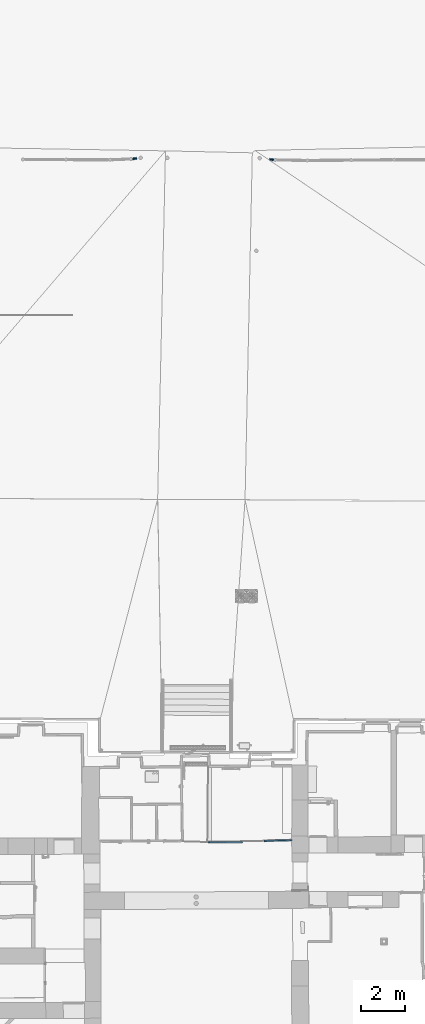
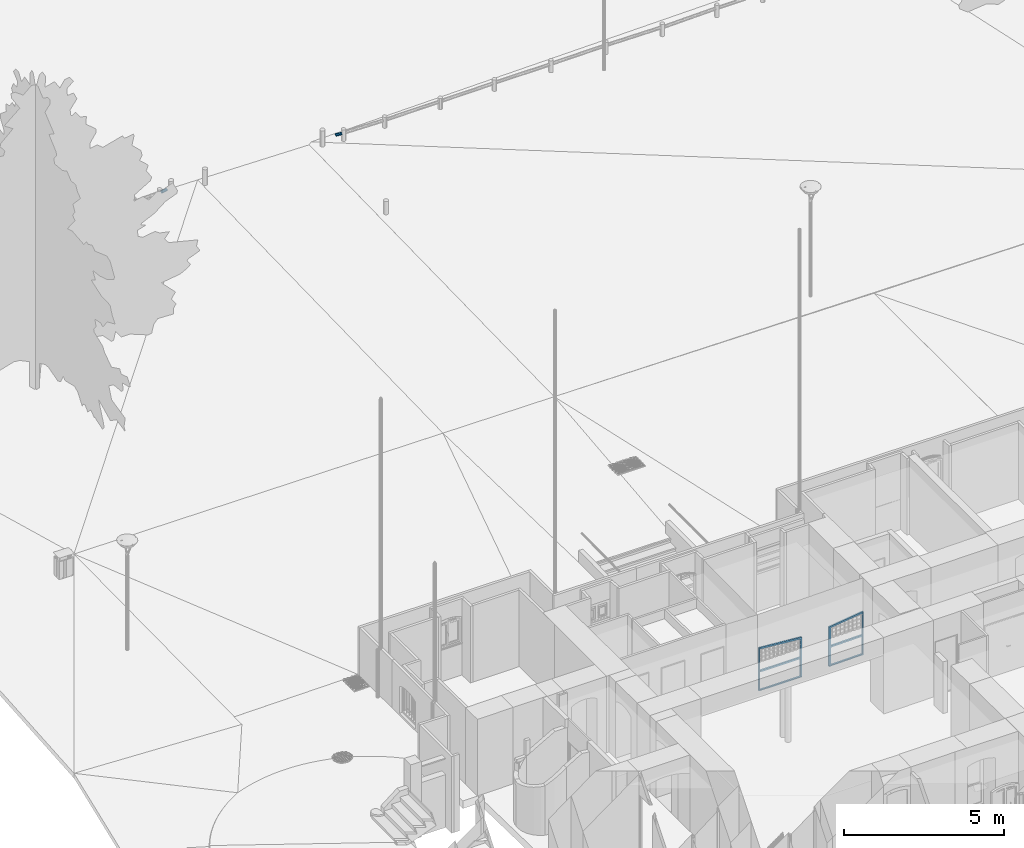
# One storey, part 5 of 133: 6 members, 2 beams, 2 elements without a shape of their own.
"""IFC2X3 building model written with IfcOpenShell, lengths in centimetres."""

import ifcopenshell
import ifcopenshell.guid

model = None  # the IFC model being written
_history = None  # IfcOwnerHistory: only IFC2X3 demands one
_inside = {}  # id of a spatial element -> (the spatial element, [elements in it])
_under = {}  # id of a project, library or spatial element -> (it, [spatial elements below it])
_declared = {}  # id of a project -> (the project, [libraries it declares])
_typed = {}  # id of a type object -> (the type object, [elements of that type])
_made_of = {}  # id of a material, layer set ... -> (it, [elements and type objects made of it])


def new_model(schema):
    """Start an empty IFC model of exactly this schema.

    Asked for "IFC4X3", IfcOpenShell would pick the latest addendum, in which some entities
    have other attributes; the version numbers below select the first issue.
    IFC2X3 requires an IfcOwnerHistory on every rooted entity: one is made here for all.
    """
    global model, _history
    if schema == "IFC4X3":
        model = ifcopenshell.file(schema_version=(4, 3, 0, 0))
    else:
        model = ifcopenshell.file(schema=schema)
    _inside.clear()
    _under.clear()
    _declared.clear()
    _typed.clear()
    _made_of.clear()
    _history = None
    if model.schema == "IFC2X3":
        org = make("IfcOrganization", Name="unknown")
        user = make(
            "IfcPersonAndOrganization",
            ThePerson=make("IfcPerson", FamilyName="unknown"),
            TheOrganization=org,
        )
        app = make(
            "IfcApplication",
            ApplicationDeveloper=org,
            Version="unknown",
            ApplicationFullName="unknown",
            ApplicationIdentifier="unknown",
        )
        _history = make(
            "IfcOwnerHistory",
            OwningUser=user,
            OwningApplication=app,
            ChangeAction="ADDED",
            CreationDate=0,
        )
    return model


def make(cls, **values):
    """One entity of the class cls with the attributes given. An attribute that is None is left unset."""
    return model.create_entity(
        cls, **{name: value for name, value in values.items() if value is not None}
    )


def entity(cls, *values):
    """Any entity or typed value of the class cls, its attributes in the order of the schema. None: left unset."""
    e = model.create_entity(cls)
    for i, value in enumerate(values):
        if value is not None:
            e[i] = value
    return e


def rooted(cls, **values):
    """An entity with a GlobalId (a new one), such as an element, a storey or a relation."""
    return make(cls, GlobalId=ifcopenshell.guid.new(), OwnerHistory=_history, **values)


def si_unit(unit_type, name, prefix=None):
    """IfcSIUnit, for example si_unit("LENGTHUNIT", "METRE", prefix="MILLI")."""
    return make("IfcSIUnit", UnitType=unit_type, Prefix=prefix, Name=name)


def converted_unit(unit_type, name, factor, base, dimensions=None, offset=None):
    """IfcConversionBasedUnit, such as the inch: factor (a typed value) times the base unit."""
    return make(
        "IfcConversionBasedUnit"
        if offset is None
        else "IfcConversionBasedUnitWithOffset",
        ConversionOffset=offset,
        Dimensions=None
        if dimensions is None
        else entity("IfcDimensionalExponents", *dimensions),
        UnitType=unit_type,
        Name=name,
        ConversionFactor=make(
            "IfcMeasureWithUnit", ValueComponent=factor, UnitComponent=base
        ),
    )


def assignment(units):
    """IfcUnitAssignment: the units of a project."""
    return None if units is None else make("IfcUnitAssignment", Units=units)


def point(xyz):
    """IfcCartesianPoint."""
    return None if xyz is None else make("IfcCartesianPoint", Coordinates=xyz)


def direction(xyz):
    """IfcDirection."""
    return None if xyz is None else make("IfcDirection", DirectionRatios=xyz)


def frame(location, z_axis=None, x_axis=None):
    """IfcAxis2Placement3D, a coordinate frame: its origin and axes. An axis left out is left unset."""
    return make(
        "IfcAxis2Placement3D",
        Location=point(location),
        Axis=direction(z_axis),
        RefDirection=direction(x_axis),
    )


def frame_2d(location, x_axis=None):
    """IfcAxis2Placement2D, a coordinate frame in the plane: its origin and x axis."""
    return make(
        "IfcAxis2Placement2D", Location=point(location), RefDirection=direction(x_axis)
    )


def origin():
    """The frame at (0, 0, 0) with its axes left unset."""
    return frame((0.0, 0.0, 0.0))


def origin_with_axes():
    """The frame at (0, 0, 0) with the z axis (0, 0, 1) and the x axis (1, 0, 0) written out."""
    return frame((0.0, 0.0, 0.0), z_axis=(0.0, 0.0, 1.0), x_axis=(1.0, 0.0, 0.0))


def origin_2d_with_axis():
    """The frame at (0, 0) in the plane with the x axis (1, 0) written out."""
    return frame_2d((0.0, 0.0), x_axis=(1.0, 0.0))


def place(relative_to, where):
    """IfcLocalPlacement: puts the frame where relative to a parent placement (None: the world)."""
    return make(
        "IfcLocalPlacement", PlacementRelTo=relative_to, RelativePlacement=where
    )


def context(
    kind, dimensions, precision=None, world=None, true_north=None, identifier=None
):
    """IfcGeometricRepresentationContext, for example the 3D "Model" context."""
    return make(
        "IfcGeometricRepresentationContext",
        ContextIdentifier=identifier,
        ContextType=kind,
        CoordinateSpaceDimension=dimensions,
        Precision=precision,
        WorldCoordinateSystem=world,
        TrueNorth=true_north,
    )


def subcontext(parent, identifier, kind, view, scale=None):
    """IfcGeometricRepresentationSubContext, for example "Body" below "Model"."""
    return make(
        "IfcGeometricRepresentationSubContext",
        ContextIdentifier=identifier,
        ContextType=kind,
        ParentContext=parent,
        TargetScale=scale,
        TargetView=view,
    )


def project(units=None, contexts=None):
    """IfcProject with its units and contexts."""
    return rooted(
        "IfcProject",
        Name="project",
        RepresentationContexts=contexts,
        UnitsInContext=assignment(units),
    )


def spatial(cls, under=None, at=None, **own):
    """A site, building, storey or space (cls), placed at a placement, below another one or the project."""
    s = rooted(cls, ObjectPlacement=at, **own)
    if under is not None:
        _under.setdefault(under.id(), (under, []))[1].append(s)
    return s


def profile(cls, at=None, kind="AREA", **sizes):
    """A parametric profile (cls). Its sizes go by their IFC names, for example OverallWidth=200.0."""
    return make(cls, ProfileType=kind, Position=at, **sizes)


def circle(**sizes):
    """IfcCircleProfileDef."""
    return profile("IfcCircleProfileDef", **sizes)


def extrude(swept, where, along, depth):
    """IfcExtrudedAreaSolid: the profile swept, set in the frame where, extruded along a direction by depth."""
    return make(
        "IfcExtrudedAreaSolid",
        SweptArea=swept,
        Position=where,
        ExtrudedDirection=direction(along),
        Depth=depth,
    )


def faces_of(points, faces, orient=None, outer=None):
    """IfcFace entities. A face is a list of loops; a loop is a list of indices into points, from 0.

    orient and outer hold one flag for each loop. By default every Orientation is true, the
    first loop of a face is its IfcFaceOuterBound and the others are IfcFaceBound.
    """
    made = []
    for i, loops in enumerate(faces):
        bounds = []
        for j, loop in enumerate(loops):
            is_outer = j == 0 if outer is None else outer[i][j]
            bounds.append(
                make(
                    "IfcFaceOuterBound" if is_outer else "IfcFaceBound",
                    Bound=make("IfcPolyLoop", Polygon=[points[k] for k in loop]),
                    Orientation=True if orient is None else orient[i][j],
                )
            )
        made.append(make("IfcFace", Bounds=bounds))
    return made


def faceted_brep(points, faces, orient=None, outer=None, voids=None):
    """IfcFacetedBrep: a solid bounded by flat faces; with voids (closed shells), ...WithVoids."""
    shared = [point(p) for p in points]
    hull = make("IfcClosedShell", CfsFaces=faces_of(shared, faces, orient, outer))
    if voids is None:
        return make("IfcFacetedBrep", Outer=hull)
    return make(
        "IfcFacetedBrepWithVoids",
        Outer=hull,
        Voids=[
            make(cls, CfsFaces=faces_of(shared, fs, o, b)) for cls, fs, o, b in voids
        ],
    )


def shape(context_of_items, identifier, shape_type, items):
    """IfcShapeRepresentation: the items that make up one representation, for example the "Body"."""
    return make(
        "IfcShapeRepresentation",
        ContextOfItems=context_of_items,
        RepresentationIdentifier=identifier,
        RepresentationType=shape_type,
        Items=items,
    )


def source(mapping_origin, context_of_items, identifier, shape_type, items):
    """IfcRepresentationMap: a shape defined once, which mapped items show again and again."""
    return make(
        "IfcRepresentationMap",
        MappingOrigin=mapping_origin,
        MappedRepresentation=shape(context_of_items, identifier, shape_type, items),
    )


def transform(
    local_origin,
    x_axis=None,
    y_axis=None,
    z_axis=None,
    scale=None,
    scale2=None,
    scale3=None,
    uniform=True,
):
    """IfcCartesianTransformationOperator3D, or its non-uniform kind. x_axis, y_axis, z_axis: its Axis1, 2, 3."""
    if uniform:
        return make(
            "IfcCartesianTransformationOperator3D",
            Axis1=direction(x_axis),
            Axis2=direction(y_axis),
            LocalOrigin=point(local_origin),
            Scale=scale,
            Axis3=direction(z_axis),
        )
    return make(
        "IfcCartesianTransformationOperator3DnonUniform",
        Axis1=direction(x_axis),
        Axis2=direction(y_axis),
        LocalOrigin=point(local_origin),
        Scale=scale,
        Axis3=direction(z_axis),
        Scale2=scale2,
        Scale3=scale3,
    )


def mapped(mapping_source, mapping_target):
    """IfcMappedItem: shows the shape of a source again, moved by a transform."""
    return make(
        "IfcMappedItem", MappingSource=mapping_source, MappingTarget=mapping_target
    )


def material(Name=None, Category=None):
    """IfcMaterial."""
    return make("IfcMaterial", Name=Name, Category=Category)


def made_of(thing, what):
    """Note that an element or type object is made of a material, layer set ...; save() writes the relation."""
    if what is not None:
        _made_of.setdefault(what.id(), (what, []))[1].append(thing)
    return thing


def type_object(cls, material=None, **own):
    """A type object (cls), such as IfcWallType, which elements share."""
    return made_of(rooted(cls, **own), material)


def element(
    cls,
    number,
    at=None,
    inside=None,
    cuts=None,
    type_object=None,
    material=None,
    context=None,
    identifier="Body",
    shape_type=None,
    held_by="IfcProductDefinitionShape",
    body=None,
    shapes=None,
    **own,
):
    """One element of the class cls, such as IfcWall. Its Tag is "e" and its number.

    at: its placement. inside: the storey or other place that contains it. cuts: it is an
    opening in that element (IfcRelVoidsElement). A single representation is given by context,
    identifier, shape_type and body (its items); several are given by shapes. held_by: the class
    of the entity that holds the representations. save() writes the other relations.
    """
    e = rooted(cls, Tag="e%d" % number, ObjectPlacement=at, **own)
    if body is not None:
        shapes = [shape(context, identifier, shape_type, body)]
    if shapes is not None:
        e.Representation = make(held_by, Representations=shapes)
    if inside is not None:
        _inside.setdefault(inside.id(), (inside, []))[1].append(e)
    if cuts is not None:
        rooted(
            "IfcRelVoidsElement", RelatingBuildingElement=cuts, RelatedOpeningElement=e
        )
    if type_object is not None:
        _typed.setdefault(type_object.id(), (type_object, []))[1].append(e)
    return made_of(e, material)


def aggregate(whole, parts):
    """IfcRelAggregates: a whole, such as a stair, and the parts it consists of."""
    return rooted("IfcRelAggregates", RelatingObject=whole, RelatedObjects=parts)


def save(model, path):
    """Write the relations noted so far, then the file.

    IfcRelAggregates (storeys below a building ...), IfcRelContainedInSpatialStructure (elements
    in a storey), IfcRelDefinesByType, IfcRelAssociatesMaterial and IfcRelDeclares: one each for
    every whole, place, type object, material and project.
    """
    for whole, parts in _under.values():
        aggregate(whole, parts)
    for where, things in _inside.values():
        rooted(
            "IfcRelContainedInSpatialStructure",
            RelatedElements=things,
            RelatingStructure=where,
        )
    for kind, things in _typed.values():
        rooted("IfcRelDefinesByType", RelatedObjects=things, RelatingType=kind)
    for what, things in _made_of.values():
        rooted("IfcRelAssociatesMaterial", RelatedObjects=things, RelatingMaterial=what)
    for by, libraries in _declared.values():
        rooted("IfcRelDeclares", RelatingContext=by, RelatedDefinitions=libraries)
    model.write(path)


model = new_model("IFC2X3")

# Units and contexts
model_context = context("Model", 3, precision=0.0001, world=origin(), true_north=direction((0.225632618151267, 0.974212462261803, 0.0)))
body_context = subcontext(model_context, "Body", "Model", "MODEL_VIEW")
ifc_project = project(units=[si_unit("LENGTHUNIT", "METRE", prefix="CENTI"), si_unit("AREAUNIT", "SQUARE_METRE", prefix="CENTI"), si_unit("VOLUMEUNIT", "CUBIC_METRE", prefix="CENTI"), converted_unit("PLANEANGLEUNIT", "DEGREE", entity("IfcRatioMeasure", 0.0174532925), si_unit("PLANEANGLEUNIT", "RADIAN"), dimensions=[0, 0, 0, 0, 0, 0, 0])], contexts=[model_context])

# Site, building, storey
site_placement = place(None, origin_with_axes())
site = spatial("IfcSite", under=ifc_project, at=site_placement, Name="Default Site", CompositionType="ELEMENT")
building_placement = place(site_placement, origin_with_axes())
building = spatial("IfcBuilding", under=site, at=building_placement, Name="Default Building", CompositionType="ELEMENT")
storey_placement = place(building_placement, frame((0.0, 0.0, -291.400371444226), z_axis=(0.0, 0.0, 1.0), x_axis=(1.0, 0.0, 0.0)))
storey = spatial("IfcBuildingStorey", under=building, at=storey_placement, Name="Rez-de-Jardin", CompositionType="ELEMENT", Elevation=-291.400371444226)

# Beams
ifc_material_1 = material(Name="Chêne rouvre 02")
beam_type = type_object("IfcBeamType", Name="Ø100", PredefinedType="NOTDEFINED", material=ifc_material_1)
shared_shape = source(origin_with_axes(), body_context, "Body", "SweptSolid", [
    extrude(circle(Radius=5.0, at=origin_2d_with_axis()), origin_with_axes(), (0.0, 0.0, 1.0), 100.0),
])
beam_1_placement = place(storey_placement, frame((-497.720271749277, 3326.36879016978, 132.400371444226), z_axis=(-0.985004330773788, -0.172529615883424, 0.0), x_axis=(0.172529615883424, -0.985004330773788, 0.0)))
element("IfcBeam", 1, at=beam_1_placement, inside=storey, type_object=beam_type, material=ifc_material_1, Name="Poutre 1702903", ObjectType="beam", context=body_context, shape_type="MappedRepresentation", body=[
    mapped(shared_shape, transform((0.0, -4.99999999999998, 0.0), x_axis=(1.0, 0.0, 0.0), y_axis=(0.0, 1.0, 0.0), z_axis=(0.0, 0.0, -1.0), scale=1.0, scale2=1.0, scale3=0.2, uniform=False)),
])
beam_2_placement = place(storey_placement, frame((148.295072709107, 3322.18067254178, 131.400371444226), z_axis=(0.990853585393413, -0.134941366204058, 6.16297582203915e-33), x_axis=(0.134941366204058, 0.990853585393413, -2.44929359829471e-16)))
element("IfcBeam", 2, at=beam_2_placement, inside=storey, type_object=beam_type, material=ifc_material_1, Name="Poutre 1702915", ObjectType="beam", context=body_context, shape_type="MappedRepresentation", body=[
    mapped(shared_shape, transform((0.0, -4.99999999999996, 0.0), x_axis=(1.0, 4.93038065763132e-32, -2.77555756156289e-17), y_axis=(0.0, 1.0, 2.73691106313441e-48), z_axis=(-1.73472347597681e-17, -6.16297582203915e-33, -1.0), scale=1.0, scale2=1.0, scale3=0.2, uniform=False)),
])

# Assembly, members
building_element_proxy_type = type_object("IfcBuildingElementProxyType", Name="Type Object", PredefinedType="NOTDEFINED")
assembly_1_placement = place(storey_placement, frame((230.29031879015, 209.448968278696, 0.0), z_axis=(0.0, 0.0, 1.0), x_axis=(-0.999739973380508, -0.0228031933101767, 0.0)))
assembly_1 = element("IfcElementAssembly", 3, at=assembly_1_placement, inside=storey, type_object=building_element_proxy_type, Name="Panneau 76236", ObjectType="Precast panel", PredefinedType="USERDEFINED")
ifc_material_2 = material(Name="Noyer 01")
member_1_placement = place(assembly_1_placement, frame((2.8421709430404e-14, -6.70551401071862e-08, 164.999997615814), z_axis=(0.0, 0.0, 1.0), x_axis=(-1.88737914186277e-15, 1.0, 0.0)))
member_1 = element("IfcMember", 4, at=member_1_placement, material=ifc_material_2, Name="4294966850", context=body_context, shape_type="Brep", body=[
    faceted_brep([(0.0, -5.00710582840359e-14, 0.0), (-5.99999986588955, -3.87467836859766e-14, 0.0), (-5.99999986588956, -3.99999991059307, 0.0), (-7.63278329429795e-15, -3.99999991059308, 0.0), (-5.99999986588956, -3.99999991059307, -160.999997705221), (-7.63278329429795e-15, -3.99999991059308, -160.999997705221), (-5.99999986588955, -3.87467836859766e-14, -164.999997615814), (0.0, -5.00710582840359e-14, -164.999997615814), (-7.54951639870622e-15, -3.99999991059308, 0.0), (-7.54951639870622e-15, -3.99999991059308, -160.999997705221), (-2.35922392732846e-13, -125.0, -160.999997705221), (-5.99999986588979, -125.0, -160.999997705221), (-5.99999986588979, -125.0, -164.999997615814), (-2.35922392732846e-13, -125.0, -164.999997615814)], [[[0, 1, 2, 3]], [[3, 2, 4, 5]], [[2, 1, 6, 4]], [[1, 0, 7, 6]], [[0, 8, 9, 7]], [[10, 11, 12, 13]], [[5, 4, 11, 10]], [[4, 6, 12, 11]], [[6, 7, 13, 12]], [[7, 9, 10, 13]]]),
])
member_2_placement = place(assembly_1_placement, frame((125.0, -6.70551685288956e-08, 3.99999991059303), z_axis=(0.0, 0.0, -1.0), x_axis=(-1.88737914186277e-15, 1.0, 0.0)))
member_2 = element("IfcMember", 5, at=member_2_placement, material=ifc_material_2, Name="4294966849", context=body_context, shape_type="Brep", body=[
    faceted_brep([(3.05311331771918e-14, 2.22044604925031e-14, -4.44089209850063e-14), (-5.99999986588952, 2.22044604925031e-14, -4.44089209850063e-14), (-5.99999986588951, -5.99999427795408, -4.44089209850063e-14), (4.19803081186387e-14, -5.99999427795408, -4.44089209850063e-14), (-5.99999986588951, -5.99999427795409, -4.44089209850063e-14), (-5.99999986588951, -5.99999427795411, -141.994472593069), (4.19803081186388e-14, -5.9999942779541, -141.994472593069), (-5.99999986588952, 2.22044604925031e-14, -147.355934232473), (-5.99999986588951, -5.99999427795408, -141.994472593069), (3.05311331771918e-14, 3.35287350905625e-14, -4.44089209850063e-14), (3.05311331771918e-14, 3.35287350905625e-14, -147.355934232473), (4.18553972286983e-14, -5.99999427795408, -4.44089209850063e-14), (4.18553972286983e-14, -5.99999427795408, -141.994472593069), (3.05311331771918e-14, 2.22044604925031e-14, -147.355934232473), (2.5882074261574e-13, -121.000000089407, -154.9619756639), (-5.99999986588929, -121.000000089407, -154.9619756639), (-5.99999986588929, -121.000000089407, -160.999997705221), (2.5882074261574e-13, -121.000000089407, -160.999997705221), (4.19803081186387e-14, -5.99999427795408, -141.994472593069), (-5.99999986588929, -121.000000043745, -154.961976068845), (2.58820742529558e-13, -121.000000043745, -154.961976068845), (2.58820741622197e-13, -120.999999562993, -161.000002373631), (-5.99999986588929, -120.999999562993, -161.000002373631), (2.58904009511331e-13, -121.000000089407, -154.9619756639), (2.58904009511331e-13, -121.000000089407, -160.999997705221)], [[[0, 1, 2, 3]], [[3, 4, 5, 6]], [[2, 1, 7, 8]], [[1, 9, 10, 7]], [[0, 11, 12, 13]], [[14, 15, 16, 17]], [[18, 8, 19, 20]], [[8, 7, 16, 15]], [[7, 13, 21, 22]], [[13, 12, 23, 24]]]),
])
member_3_placement = place(assembly_1_placement, frame((119.000005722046, -5.99999993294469, 71.0328876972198), z_axis=(1.0, 1.88737914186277e-15, 0.0), x_axis=(1.88737914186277e-15, -1.0, 0.0)))
member_3 = element("IfcMember", 6, at=member_3_placement, material=ifc_material_2, Name="4294966834", context=body_context, shape_type="Brep", body=[
    faceted_brep([(1.73472347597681e-15, -4.44089209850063e-14, 2.22044604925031e-14), (-5.99999986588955, -4.44089209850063e-14, 3.35287350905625e-14), (-5.99999986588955, -6.00000023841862, 3.35287350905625e-14), (1.73472347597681e-15, -6.00000023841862, 2.22044604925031e-14), (-2.15105711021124e-13, -6.00000023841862, -115.000005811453), (-5.99999986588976, -6.00000023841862, -115.000005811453), (-5.99999986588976, -4.44089209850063e-14, -115.000005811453), (-2.15105711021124e-13, -4.44089209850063e-14, -115.000005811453), (-5.99999986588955, -6.00000023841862, 2.22044604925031e-14), (-5.99999986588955, -4.44089209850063e-14, 2.22044604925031e-14), (-2.15313888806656e-13, -6.00000023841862, -115.000005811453), (-2.15313888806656e-13, -4.44089209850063e-14, -115.000005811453)], [[[0, 1, 2, 3]], [[4, 5, 6, 7]], [[3, 8, 5, 4]], [[8, 9, 6, 5]], [[9, 0, 7, 6]], [[0, 3, 10, 11]]]),
])
aggregate(assembly_1, [member_1, member_2, member_3])

assembly_2_placement = place(storey_placement, frame((-151.298940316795, 206.642558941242, 0.0), z_axis=(0.0, 0.0, 1.0), x_axis=(1.0, 0.0, 0.0)))
assembly_2 = element("IfcElementAssembly", 7, at=assembly_2_placement, inside=storey, type_object=building_element_proxy_type, Name="Panneau 76235", ObjectType="Precast panel", PredefinedType="USERDEFINED")
member_4_placement = place(assembly_2_placement, frame((0.0, -6.70552253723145e-08, 164.999997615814), z_axis=(0.0, 0.0, 1.0), x_axis=(0.0, 1.0, 0.0)))
member_4 = element("IfcMember", 8, at=member_4_placement, material=ifc_material_2, Name="4294966775", context=body_context, shape_type="Brep", body=[
    faceted_brep([(0.0, -3.23077966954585e-14, 2.22044604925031e-14), (-5.99999986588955, -3.23077966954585e-14, 2.22044604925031e-14), (-5.99999986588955, -3.99999991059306, 2.22044604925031e-14), (0.0, -3.99999991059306, 2.22044604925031e-14), (-5.99999986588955, -3.99999991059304, -160.999997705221), (0.0, -3.99999991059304, -160.999997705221), (-5.99999986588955, -2.22044604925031e-14, -164.999997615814), (-5.99999986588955, -3.99999991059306, -160.999997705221), (0.0, -2.22044603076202e-14, -164.999997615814), (-5.99999986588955, -2.22044603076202e-14, -164.999997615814), (0.0, -3.99999991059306, -160.999997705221), (0.0, -2.22044604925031e-14, -164.999997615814), (0.0, -155.999994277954, -160.999997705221), (-5.99999986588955, -155.999994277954, -160.999997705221), (-5.99999986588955, -155.999994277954, -164.999997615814), (0.0, -155.999994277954, -164.999997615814)], [[[0, 1, 2, 3]], [[3, 2, 4, 5]], [[2, 1, 6, 7]], [[1, 0, 8, 9]], [[0, 3, 10, 11]], [[12, 13, 14, 15]], [[10, 7, 13, 12]], [[7, 6, 14, 13]], [[6, 11, 15, 14]], [[11, 10, 12, 15]]]),
])
member_5_placement = place(assembly_2_placement, frame((155.999994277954, -6.70552253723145e-08, 3.99999991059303), z_axis=(0.0, 0.0, -1.0), x_axis=(0.0, 1.0, 0.0)))
member_5 = element("IfcMember", 9, at=member_5_placement, material=ifc_material_2, Name="4294966774", context=body_context, shape_type="Brep", body=[
    faceted_brep([(0.0, 0.0, 0.0), (-5.99999986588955, 0.0, 0.0), (-5.99999986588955, -5.9999942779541, 0.0), (0.0, -5.9999942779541, 0.0), (-5.99999986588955, -5.9999942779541, -141.870387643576), (0.0, -5.9999942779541, -141.870387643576), (-5.99999986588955, 0.0, -147.355934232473), (0.0, 0.0, -147.355934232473), (0.0, -151.999994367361, -154.975875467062), (-5.99999986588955, -151.999994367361, -154.975875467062), (-5.99999986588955, -151.999994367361, -160.999997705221), (0.0, -151.999994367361, -160.999997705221), (-5.99999986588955, -151.999994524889, -154.975873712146), (0.0, -151.999994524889, -154.975873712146), (0.0, -151.999994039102, -161.000001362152), (-5.99999986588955, -151.999994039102, -161.000001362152)], [[[0, 1, 2, 3]], [[3, 2, 4, 5]], [[2, 1, 6, 4]], [[1, 0, 7, 6]], [[0, 3, 5, 7]], [[8, 9, 10, 11]], [[5, 4, 12, 13]], [[4, 6, 10, 9]], [[6, 7, 14, 15]], [[7, 5, 8, 11]]]),
])
member_6_placement = place(assembly_2_placement, frame((150.0, -5.99999993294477, 71.0391461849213), z_axis=(1.0, 0.0, 0.0), x_axis=(0.0, -1.0, 0.0)))
member_6 = element("IfcMember", 10, at=member_6_placement, material=ifc_material_2, Name="4294966757", context=body_context, shape_type="Brep", body=[
    faceted_brep([(0.0, 0.0, 0.0), (-5.99999986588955, 0.0, 0.0), (-5.99999986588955, -6.00000023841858, 0.0), (0.0, -6.00000023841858, 0.0), (0.0, -6.00000023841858, -146.000000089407), (-5.99999986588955, -6.00000023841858, -146.000000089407), (-5.99999986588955, 0.0, -146.000000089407), (0.0, 0.0, -146.000000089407)], [[[0, 1, 2, 3]], [[4, 5, 6, 7]], [[3, 2, 5, 4]], [[2, 1, 6, 5]], [[1, 0, 7, 6]], [[0, 3, 4, 7]]]),
])
aggregate(assembly_2, [member_4, member_5, member_6])

save(model, "model.ifc")
